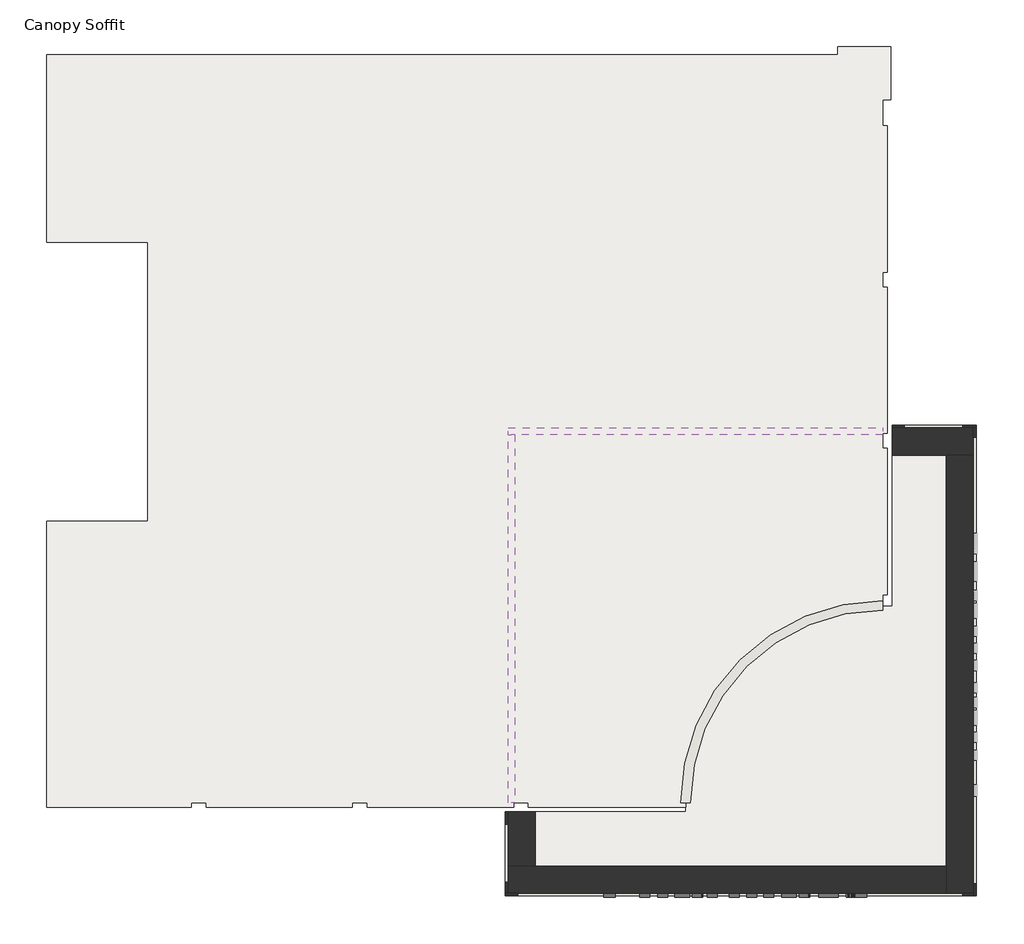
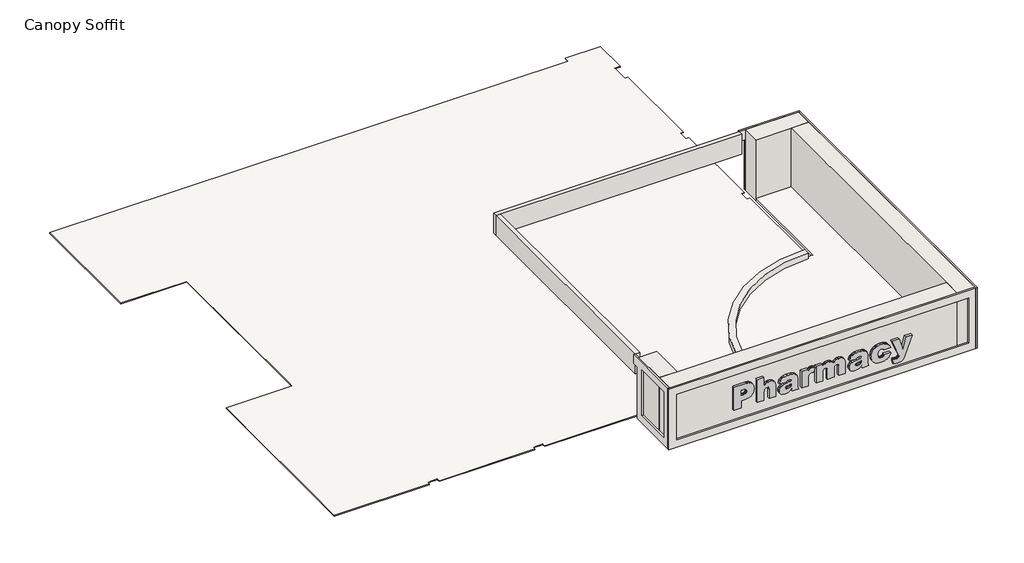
# One storey, part 1 of 2: 11 walls, 2 coverings, 1 proxy.
"""IFC4 building model written with IfcOpenShell, lengths in millimetres."""

from ifc_helpers import new_model, si_unit, point, frame, frame_2d, origin, place, context, project, spatial, polyline, circle_curve, trimmed, segment, composite_curve, outline, extrude, faceted_brep, element, save
from ifc_brep_helpers import plane_surface, cylinder_surface, revolved_surface, advanced_brep

model = new_model("IFC4")

# Units and contexts
model_context = context("Model", 3, world=origin())
ifc_project = project(units=[si_unit("LENGTHUNIT", "METRE", prefix="MILLI")], contexts=[model_context])

# Site, building, storey
site = spatial("IfcSite", under=ifc_project)
building = spatial("IfcBuilding", under=site)
storey = spatial("IfcBuildingStorey", under=building, Name="Canopy Soffit", Elevation=4572.0)

# Proxy
placement = place(None, origin())
element("IfcBuildingElementProxy", 1, Name="big", ObjectType="big", at=placement, inside=storey, context=model_context, shape_type="SweptSolid", body=[
    extrude(outline(polyline([(7079.97721, 8014.3522712), (5707.3420402, 8014.3522712), (5707.3420402, 8444.9829127), (6137.9726817, 8444.9829127), (6137.9726817, 8673.3349032), (6139.9669505, 8734.3950112), (6145.9497569, 8791.4140144), (6155.9211009, 8844.3919127), (6169.8809824, 8893.3287063), (6187.8294016, 8938.2243951), (6209.7663583, 8979.078979), (6235.6918526, 9015.8924581), (6265.6058845, 9048.6648325), (6299.0682036, 9077.4946655), (6335.6385594, 9102.4805209), (6375.3169518, 9123.6223984), (6418.103381, 9140.9202983), (6463.9978469, 9154.3742204), (6513.0003495, 9163.9841647), (6565.1108887, 9169.7501313), (6620.3294647, 9171.6721202), (6673.8461771, 9169.8914057), (6724.2154273, 9164.5492623), (6771.4372154, 9155.6456899), (6815.5115414, 9143.1806886), (6856.4384053, 9127.1542583), (6894.217807, 9107.5663991), (6928.8497466, 9084.4171109), (6960.3342242, 9057.7063938), (6988.375549, 9027.4211059), (7012.6780305, 8993.5481055), (7033.2416687, 8956.0873925), (7050.0664636, 8915.0389669), (7063.1524151, 8870.4028288), (7072.4995234, 8822.1789781), (7078.1077884, 8770.3674149), (7079.97721, 8714.9681391), (7079.97721, 8014.3522712)]), holes=[polyline([(6460.9456628, 8444.9829127), (6757.0042289, 8444.9829127), (6757.0042289, 8554.7432617), (6754.2838754, 8604.471849), (6746.122815, 8645.5794127), (6732.5210476, 8678.0659528), (6713.4785732, 8701.9314693), (6690.5461248, 8719.0420984), (6665.2744353, 8731.2639763), (6637.6635045, 8738.5971031), (6607.7133327, 8741.0414787), (6576.9877943, 8738.2291326), (6549.1534529, 8729.7920943), (6524.2103085, 8715.7303637), (6502.158361, 8696.043941), (6484.1278055, 8669.392362), (6471.2488374, 8634.4351627), (6463.5214565, 8591.1723431), (6460.9456628, 8539.6039032), (6460.9456628, 8444.9829127)])]), frame((0.0, -17607.3313057, 0.0), z_axis=(0.0, 1.0, 0.0), x_axis=(0.0, 0.0, 1.0)), (0.0, 0.0, 1.0), 152.4),
    extrude(outline(polyline([(7079.97721, 9360.0730259), (5707.3420402, 9360.0730259), (5707.3420402, 9736.8748372), (6190.5398987, 9736.8748372), (6254.0148132, 9739.6477579), (6306.9237171, 9747.96652), (6349.2666104, 9761.8311235), (6381.043493, 9781.2415683), (6404.2256357, 9805.1202266), (6420.7843091, 9832.3894704), (6430.7195131, 9863.0492998), (6434.0312478, 9897.0997146), (6431.5737304, 9927.483566), (6424.2011782, 9954.2928466), (6411.9135912, 9977.5275565), (6394.7109695, 9997.1876957), (6371.5945358, 10012.8264427), (6341.5655131, 10023.9969763), (6304.6239014, 10030.6992965), (6260.7697006, 10032.9334032), (5707.3420402, 10032.9334032), (5707.3420402, 10409.7352146), (6343.1950968, 10409.7352146), (6435.2402937, 10404.1236641), (6476.4924173, 10397.1092261), (6514.5642242, 10387.2890129), (6549.4557144, 10374.6630245), (6581.1668881, 10359.2312608), (6609.6977451, 10340.993722), (6635.0482855, 10319.9504079), (6657.3236437, 10296.4692892), (6676.6289541, 10270.9183363), (6692.9642168, 10243.2975492), (6706.3294317, 10213.606928), (6716.7245989, 10181.8464726), (6724.1497183, 10148.016183), (6730.0898138, 10074.1461013), (6727.9345579, 10023.3267443), (6721.4687902, 9976.0031072), (6710.6925107, 9932.1751901), (6695.6057195, 9891.8429929), (6675.498759, 9853.2192302), (6649.6619718, 9814.5166167), (6618.095358, 9775.7351523), (6580.7989176, 9736.8748372), (7079.97721, 9736.8748372), (7079.97721, 9360.0730259)])), frame((0.0, -17607.3313057, 0.0), z_axis=(0.0, 1.0, 0.0), x_axis=(0.0, 0.0, 1.0)), (0.0, 0.0, 1.0), 152.4),
    extrude(outline(polyline([(6353.2880025, 11001.8523466), (6380.3864028, 11012.7337605), (6402.8063209, 11025.192191), (6420.5477566, 11039.2276379), (6433.61071, 11054.8401013), (6445.5697519, 11078.3113637), (6454.1119246, 11107.091915), (6459.2372283, 11141.1817552), (6460.9456628, 11180.5808844), (6459.4474972, 11210.7281833), (6454.9530001, 11235.9867311), (6447.4621717, 11256.3565276), (6436.9750119, 11271.837573), (6422.7555797, 11283.2446591), (6404.0679341, 11291.3925778), (6380.912075, 11296.2813289), (6353.2880025, 11297.9109127), (6328.5288433, 11231.0979799), (6308.9212713, 11167.7544834), (6285.5288598, 11069.8217582), (6249.4151817, 10899.2411391), (6229.6761917, 10819.628089), (6205.3638539, 10753.629948), (6176.4781682, 10701.2467163), (6143.0191345, 10662.4783938), (6104.8027678, 10634.3286491), (6061.6450827, 10614.2216886), (6013.5460791, 10602.1575123), (5960.5057572, 10598.1361202), (5903.5754612, 10603.7082452), (5851.3762147, 10620.4246202), (5803.9080178, 10648.2852452), (5761.1708704, 10687.2901202), (5742.2466723, 10710.8730879), (5725.8457006, 10737.0449911), (5711.9679553, 10765.8058297), (5700.6134364, 10797.1556037), (5685.4740779, 10867.6219581), (5680.4276251, 10948.4440542), (5683.6867926, 11011.2355949), (5693.4642949, 11070.0845943), (5709.7601322, 11124.9910524), (5732.5743044, 11175.9549693), (5755.5724618, 11211.753244), (5785.0363869, 11247.6566532), (5820.9660797, 11283.6651969), (5863.3615402, 11319.7788749), (5782.4080261, 11333.0258136), (5707.3420402, 11361.4121108), (5707.3420402, 11722.6540259), (5764.0095001, 11697.737165), (5809.53271, 11683.5440164), (5857.1586086, 11676.9205471), (5920.1341345, 11674.712724), (6361.6987572, 11674.712724), (6397.4707483, 11672.9911476), (6434.1363822, 11667.8264186), (6510.1485779, 11647.1675023), (6546.8404954, 11632.1201364), (6579.1167666, 11614.5232605), (6606.9773916, 11594.3768746), (6630.4223704, 11571.6809787), (6658.309279, 11535.4884498), (6680.9920331, 11495.0379763), (6698.4706328, 11450.3295583), (6710.7450779, 11401.3631957), (6719.2083999, 11346.1150506), (6725.2536298, 11282.5612853), (6730.0898138, 11130.5368938), (6725.5164659, 11029.1347322), (6711.7964223, 10935.1971155), (6689.8758928, 10854.7167063), (6676.1952746, 10821.7702031), (6660.7010874, 10793.6861674), (6636.559593, 10759.8328796), (6610.3942607, 10730.1849693), (6582.2050906, 10704.7424363), (6551.9920827, 10683.5052806), (6517.8365334, 10665.5010088), (6477.8197395, 10649.7571273), (6431.9417009, 10636.2736361), (6380.2024176, 10625.0505353), (6353.2880025, 11001.8523466)]), holes=[polyline([(6164.8870968, 11297.9109127), (6118.6279459, 11297.9109127), (6069.477598, 11292.4964893), (6048.7266891, 11285.7284601), (6030.5252902, 11276.2532193), (6014.2425947, 11263.5582364), (5999.2477961, 11247.1309811), (5973.1218893, 11203.0796532), (5955.4593044, 11149.4085247), (5949.5717761, 11091.4268844), (5954.9861994, 11041.1200577), (5961.7542286, 11021.1313735), (5971.2294695, 11004.5858419), (5982.8599662, 10991.6148811), (5996.0937631, 10982.3499091), (6010.9308601, 10976.7909259), (6027.3712572, 10974.9379315), (6041.9060927, 10976.8040677), (6055.6524199, 10982.4024763), (6068.6102389, 10991.7331574), (6080.7795496, 11004.7961108), (6092.1866357, 11024.5088171), (6103.6988562, 11054.2092947), (6127.0387006, 11143.5735636), (6144.7012855, 11222.3192546), (6164.8870968, 11297.9109127)])]), frame((0.0, -17607.3313057, 0.0), z_axis=(0.0, 1.0, 0.0), x_axis=(0.0, 0.0, 1.0)), (0.0, 0.0, 1.0), 152.4),
    extrude(outline(polyline([(6703.1753987, 11890.0280447), (5707.3420402, 11890.0280447), (5707.3420402, 12266.8298561), (6043.3516912, 12266.8298561), (6154.0845337, 12270.5621285), (6245.7354765, 12281.7589457), (6318.3045196, 12300.4203077), (6347.4333287, 12312.550193), (6371.7916628, 12326.5462146), (6399.0214812, 12349.4918048), (6418.4713515, 12376.6953396), (6430.1412737, 12408.1568189), (6434.0312478, 12443.8762429), (6426.9872407, 12490.5559315), (6405.8552195, 12551.5339032), (6673.7377572, 12670.5460825), (6698.391782, 12621.0803313), (6716.0017996, 12573.6121344), (6726.5678103, 12528.1414917), (6730.0898138, 12484.6684032), (6727.5797292, 12445.7029536), (6720.0494753, 12409.9703879), (6707.4990523, 12377.470706), (6689.92846, 12348.2039079), (6665.6818312, 12320.7769625), (6633.1032985, 12293.7968384), (6592.1928618, 12267.2635356), (6542.9505213, 12241.1770542), (6703.1753987, 12241.1770542), (6703.1753987, 11890.0280447)])), frame((0.0, -17607.3313057, 0.0), z_axis=(0.0, 1.0, 0.0), x_axis=(0.0, 0.0, 1.0)), (0.0, 0.0, 1.0), 152.4),
    extrude(outline(polyline([(6703.1753987, 12724.3749127), (5707.3420402, 12724.3749127), (5707.3420402, 13101.176724), (6219.5570025, 13101.176724), (6272.7287424, 13103.8050848), (6317.8576982, 13111.6901674), (6354.9438698, 13124.8319716), (6383.9872572, 13143.2304976), (6405.8815031, 13165.7292664), (6421.5202501, 13191.1717995), (6430.9034983, 13219.5580966), (6434.0312478, 13250.8881579), (6428.2488539, 13288.3160164), (6410.9016723, 13320.6974221), (6384.0923916, 13346.1399551), (6349.9237006, 13362.7511957), (6315.7550095, 13368.4284551), (6260.3491628, 13370.3208749), (5707.3420402, 13370.3208749), (5707.3420402, 13747.1226863), (6226.706144, 13747.1226863), (6277.4335084, 13749.6721963), (6320.6963279, 13757.3207263), (6356.4946027, 13770.0682765), (6384.8283327, 13787.9148466), (6406.354608, 13809.9405105), (6421.730519, 13835.2253419), (6430.9560656, 13863.7693407), (6434.0312478, 13895.572507), (6430.7720803, 13922.7760418), (6420.9945779, 13947.6140518), (6404.6987407, 13970.0865371), (6381.8845685, 13990.1934976), (6363.0917884, 14001.6005837), (6339.9359294, 14009.7485023), (6312.4169913, 14014.6372535), (6280.5349742, 14016.2668372), (5707.3420402, 14016.2668372), (5707.3420402, 14393.0686485), (6335.6254176, 14393.0686485), (6430.4698188, 14387.5096653), (6472.8554229, 14380.5609363), (6511.8832961, 14370.8327157), (6547.5534383, 14358.3250035), (6579.8658495, 14343.0377998), (6608.8205297, 14324.9711044), (6634.4174789, 14304.1249174), (6656.8406824, 14280.8080712), (6676.2741254, 14255.3293982), (6692.717808, 14227.6888984), (6706.1717301, 14197.8865719), (6716.6358917, 14165.9224185), (6724.1102929, 14131.7964383), (6730.0898138, 14057.0589976), (6727.8951325, 14005.5694085), (6721.3110886, 13958.3377641), (6710.337682, 13915.3640642), (6694.9749128, 13876.6483089), (6673.5406301, 13839.0890324), (6644.3526829, 13799.5847688), (6607.4110712, 13758.1355182), (6562.7157949, 13714.7412806), (6601.7732371, 13691.3225854), (6635.6790921, 13664.8024245), (6664.4333598, 13635.1807977), (6688.0360402, 13602.4577051), (6706.4345662, 13565.1086975), (6719.5763704, 13521.6093254), (6727.4614529, 13471.959589), (6730.0898138, 13416.1594881), (6727.6980054, 13363.3031515), (6720.5225803, 13314.4944905), (6708.5635384, 13269.7335052), (6691.8208798, 13229.0201957), (6669.4009618, 13190.4095748), (6640.4101416, 13151.9566556), (6604.8484193, 13113.661438), (6562.7157949, 13075.5239221), (6703.1753987, 13075.5239221), (6703.1753987, 12724.3749127)])), frame((0.0, -17607.3313057, 0.0), z_axis=(0.0, 1.0, 0.0), x_axis=(0.0, 0.0, 1.0)), (0.0, 0.0, 1.0), 152.4),
    extrude(outline(polyline([(6353.2880025, 15012.1001957), (6380.3864028, 15022.9816096), (6402.8063209, 15035.44004), (6420.5477566, 15049.475487), (6433.61071, 15065.0879504), (6445.5697519, 15088.5592128), (6454.1119246, 15117.3397641), (6459.2372283, 15151.4296043), (6460.9456628, 15190.8287334), (6459.4474972, 15220.9760324), (6454.9530001, 15246.2345801), (6447.4621717, 15266.6043767), (6436.9750119, 15282.0854221), (6422.7555797, 15293.4925082), (6404.0679341, 15301.6404268), (6380.912075, 15306.529178), (6353.2880025, 15308.1587617), (6328.5288433, 15241.3458289), (6308.9212713, 15178.0023325), (6285.5288598, 15080.0696072), (6249.4151817, 14909.4889881), (6229.6761917, 14829.875938), (6205.3638539, 14763.8777971), (6176.4781682, 14711.4945654), (6143.0191345, 14672.7262429), (6104.8027678, 14644.5764982), (6061.6450827, 14624.4695377), (6013.5460791, 14612.4053614), (5960.5057572, 14608.3839693), (5903.5754612, 14613.9560943), (5851.3762147, 14630.6724693), (5803.9080178, 14658.5330943), (5761.1708704, 14697.5379693), (5742.2466723, 14721.120937), (5725.8457006, 14747.2928401), (5711.9679553, 14776.0536787), (5700.6134364, 14807.4034528), (5685.4740779, 14877.8698071), (5680.4276251, 14958.6919032), (5683.6867926, 15021.4834439), (5693.4642949, 15080.3324433), (5709.7601322, 15135.2389015), (5732.5743044, 15186.2028183), (5755.5724618, 15222.0010931), (5785.0363869, 15257.9045023), (5820.9660797, 15293.9130459), (5863.3615402, 15330.026724), (5782.4080261, 15343.2736627), (5707.3420402, 15371.6599598), (5707.3420402, 15732.9018749), (5764.0095001, 15707.9850141), (5809.53271, 15693.7918655), (5857.1586086, 15687.1683962), (5920.1341345, 15684.960573), (6361.6987572, 15684.960573), (6397.4707483, 15683.2389967), (6434.1363822, 15678.0742676), (6510.1485779, 15657.4153513), (6546.8404954, 15642.3679855), (6579.1167666, 15624.7711096), (6606.9773916, 15604.6247237), (6630.4223704, 15581.9288278), (6658.309279, 15545.7362989), (6680.9920331, 15505.2858254), (6698.4706328, 15460.5774074), (6710.7450779, 15411.6110447), (6719.2083999, 15356.3628997), (6725.2536298, 15292.8091344), (6730.0898138, 15140.7847429), (6725.5164659, 15039.3825813), (6711.7964223, 14945.4449646), (6689.8758928, 14864.9645554), (6676.1952746, 14832.0180521), (6660.7010874, 14803.9340164), (6636.559593, 14770.0807287), (6610.3942607, 14740.4328183), (6582.2050906, 14714.9902853), (6551.9920827, 14693.7531296), (6517.8365334, 14675.7488578), (6477.8197395, 14660.0049763), (6431.9417009, 14646.5214852), (6380.2024176, 14635.2983844), (6353.2880025, 15012.1001957)]), holes=[polyline([(6164.8870968, 15308.1587617), (6118.6279459, 15308.1587617), (6069.477598, 15302.7443384), (6048.7266891, 15295.9763092), (6030.5252902, 15286.5010683), (6014.2425947, 15273.8060854), (5999.2477961, 15257.3788301), (5973.1218893, 15213.3275023), (5955.4593044, 15159.6563738), (5949.5717761, 15101.6747334), (5954.9861994, 15051.3679068), (5961.7542286, 15031.3792225), (5971.2294695, 15014.833691), (5982.8599662, 15001.8627302), (5996.0937631, 14992.5977582), (6010.9308601, 14987.038775), (6027.3712572, 14985.1857806), (6041.9060927, 14987.0519168), (6055.6524199, 14992.6503254), (6068.6102389, 15001.9810064), (6080.7795496, 15015.0439598), (6092.1866357, 15034.7566662), (6103.6988562, 15064.4571438), (6127.0387006, 15153.8214127), (6144.7012855, 15232.5671037), (6164.8870968, 15308.1587617)])]), frame((0.0, -17607.3313057, 0.0), z_axis=(0.0, 1.0, 0.0), x_axis=(0.0, 0.0, 1.0)), (0.0, 0.0, 1.0), 152.4),
    extrude(outline(polyline([(6084.1438515, 16626.9651013), (6052.090991, 16613.9021479), (6024.4800603, 16597.8428631), (6001.3110594, 16578.787247), (5982.5839883, 16556.7352995), (5968.1411455, 16531.792155), (5957.8248291, 16504.062948), (5951.6350393, 16473.5476786), (5949.5717761, 16440.2463466), (5953.4617501, 16400.6500904), (5965.1316723, 16364.7072558), (5984.5815426, 16332.4178428), (6011.811361, 16303.7818513), (6046.5320078, 16280.3237308), (6088.4543633, 16263.5679304), (6137.5784276, 16253.5144501), (6193.9042006, 16250.16329), (6256.9191519, 16253.4224575), (6311.3919305, 16263.1999598), (6357.3225364, 16279.4957971), (6394.7109695, 16302.3099693), (6423.6886478, 16330.4071467), (6444.3869895, 16362.5519999), (6456.8059945, 16398.7445288), (6460.9456628, 16438.9847334), (6459.2503701, 16470.7090489), (6454.1644919, 16499.0164952), (6445.6880281, 16523.9070725), (6433.8209789, 16545.3807806), (6418.6159114, 16563.6216049), (6400.1253928, 16578.8135306), (6378.3494232, 16590.9565577), (6353.2880025, 16600.0506863), (6380.2024176, 16976.8524976), (6460.8405284, 16946.9811765), (6497.2958934, 16928.5662233), (6531.1754647, 16907.8317417), (6562.4792424, 16884.7777316), (6591.2072265, 16859.404193), (6617.359417, 16831.711126), (6640.9358138, 16801.6985306), (6661.8312825, 16768.7618837), (6679.9406888, 16732.2966624), (6695.2640325, 16692.3028666), (6707.8013138, 16648.7804964), (6717.5525325, 16601.7295517), (6724.5176888, 16551.1500327), (6730.0898138, 16439.4052712), (6727.1986169, 16358.1100701), (6718.5250261, 16284.5422499), (6704.0690414, 16218.7018107), (6683.8306628, 16160.5887523), (6667.2062805, 16126.5383375), (6646.7707749, 16092.934744), (6622.524146, 16059.7779719), (6594.466394, 16027.0680212), (6563.517445, 15996.3030574), (6530.5972253, 15968.9812464), (6495.7057351, 15945.1025881), (6458.8429742, 15924.6670825), (6404.0942177, 15902.2208808), (6342.8796935, 15886.1878796), (6275.1994016, 15876.5680789), (6201.0533421, 15873.3614787), (6130.4949951, 15876.0029814), (6067.2697749, 15883.9274893), (6011.3776814, 15897.1350026), (5962.8187147, 15915.6255212), (5919.3850517, 15938.7813802), (5878.8688692, 15965.984915), (5841.2701673, 15997.2361255), (5806.5889459, 16032.5350117), (5775.6531387, 16071.658163), (5749.2906794, 16114.3821686), (5727.5015679, 16160.7070285), (5710.2858044, 16210.6327429), (5697.2228509, 16265.6180518), (5687.8921699, 16327.1216957), (5682.2937613, 16395.1436745), (5680.4276251, 16469.6839881), (5683.3451057, 16546.6818192), (5692.0975473, 16616.6093596), (5706.68495, 16679.4666093), (5727.1073138, 16735.2535683), (5752.7863993, 16785.1792827), (5783.1439671, 16830.4527983), (5818.1800172, 16871.0741152), (5857.8945496, 16907.0432334), (5901.8933103, 16938.3207275), (5949.7820449, 16964.8671721), (6001.5607537, 16986.6825671), (6057.2294364, 17003.7669127), (6084.1438515, 16626.9651013)])), frame((0.0, -17607.3313057, 0.0), z_axis=(0.0, 1.0, 0.0), x_axis=(0.0, 0.0, 1.0)), (0.0, 0.0, 1.0), 152.4),
    extrude(outline(polyline([(6703.1753987, 17057.5957429), (5698.5107478, 17473.9281013), (5665.8796478, 17458.6310412), (5638.6366876, 17441.7569646), (5616.7818672, 17423.3058714), (5600.3151864, 17403.2777617), (5588.2641519, 17380.8578437), (5579.6562702, 17355.2313254), (5574.4915411, 17326.3982069), (5572.7699647, 17294.3584881), (5574.3206976, 17245.2344239), (5578.9728963, 17198.3707499), (5586.7265608, 17153.7674663), (5597.5816912, 17111.424573), (5326.7553893, 17141.2827523), (5309.4082077, 17289.8377075), (5303.6258138, 17394.0259315), (5309.1979388, 17488.3052352), (5316.163095, 17530.615274), (5325.9143138, 17569.7055707), (5338.451595, 17605.5761254), (5353.7749388, 17638.226938), (5371.884345, 17667.6580086), (5392.7798138, 17693.8693372), (5431.837256, 17728.589984), (5485.5083845, 17762.9426603), (5553.7931994, 17796.9273661), (5636.6917006, 17830.5441013), (6703.1753987, 18214.9155919), (6703.1753987, 17844.4218466), (6040.407927, 17663.1700825), (6703.1753987, 17463.4146579), (6703.1753987, 17057.5957429)])), frame((0.0, -17607.3313057, 0.0), z_axis=(0.0, 1.0, 0.0), x_axis=(0.0, 0.0, 1.0)), (0.0, 0.0, 1.0), 152.4),
])

# Coverings
element("IfcCovering", 2, ObjectType="24\" x 24\" ACT.", at=placement, inside=storey, context=model_context, shape_type="SweptSolid", body=[
    extrude(outline(composite_curve([segment(polyline([(18477.7022279, 12310.6936943), (18477.7022279, 11321.6811943), (18653.9147279, 11321.6811943), (18653.9147279, 5835.2811943), (18477.7022279, 5835.2811943), (18477.7022279, 5276.4811943), (18653.9147279, 5276.4811943), (18653.9147279, -209.9188057), (18477.7022279, -209.9188057), (18477.7022279, -768.7188057), (18653.9147279, -768.7188057), (18653.9147279, -6255.1188057), (18477.7022279, -6255.1188057), (18477.7022279, -6661.5188057)]), True, "CONTINUOUS"), segment(trimmed(circle_curve(frame_2d((18477.7022279, -14054.5063057)), 7392.9875), [point((18477.7022279, -6661.5188057))], [point((11086.8150464, -14230.7188057))], True, "CARTESIAN"), True, "CONTINUOUS"), segment(polyline([(11086.8150464, -14230.7188057), (5191.9147279, -14230.7188057), (5191.9147279, -14054.5063057), (4633.1147279, -14054.5063057), (4633.1147279, -14230.7188057), (-853.2852721, -14230.7188057), (-853.2852721, -14054.5063057), (-1412.0852721, -14054.5063057), (-1412.0852721, -14230.7188057), (-6898.4852721, -14230.7188057), (-6898.4852721, -14054.5063057), (-7457.2852721, -14054.5063057), (-7457.2852721, -14230.7188057), (-12883.3602721, -14230.7188057), (-12883.3602721, -3500.0125557), (-9095.5852721, -3500.0125557), (-9095.5852721, 6956.8499443), (-12883.3602721, 6956.8499443), (-12883.3602721, 13993.4436943), (16794.9522279, 13993.4436943), (16794.9522279, 14298.2436943), (18782.5022279, 14298.2436943), (18782.5022279, 12310.6936943), (18477.7022279, 12310.6936943)]), True, "CONTINUOUS")], self_intersect=False)), frame((0.0, 0.0, 4572.0), z_axis=(0.0, 0.0, 1.0), x_axis=(1.0, 0.0, 0.0)), (0.0, 0.0, 1.0), 38.1),
])
element("IfcCovering", 3, ObjectType="GWB on Mtl. Stud", at=placement, inside=storey, context=model_context, shape_type="SweptSolid", body=[
    extrude(outline(composite_curve([segment(polyline([(5445.9147279, -14406.9313057), (11093.1195861, -14406.9313057)]), True, "CONTINUOUS"), segment(trimmed(circle_curve(frame_2d((18477.7022279, -14054.5063057)), 7392.9875), [point((11093.1195861, -14406.9313057))], [point((18830.1272279, -6669.9236638))], False, "CARTESIAN"), True, "CONTINUOUS"), segment(polyline([(18830.1272279, -6669.9236638), (18830.1272279, -1022.7188057), (20862.1272279, -1022.7188057), (20862.1272279, -16438.9313057), (5445.9147279, -16438.9313057), (5445.9147279, -14406.9313057)]), True, "CONTINUOUS")], self_intersect=False)), frame((0.0, 0.0, 4572.0), z_axis=(0.0, 0.0, 1.0), x_axis=(1.0, 0.0, 0.0)), (0.0, 0.0, 1.0), 107.95),
])

# Walls
element("IfcWall", 4, ObjectType="Exterior - Brick on Mtl. Stud - No Cap", at=placement, inside=storey, context=model_context, shape_type="AdvancedBrep", body=[
    advanced_brep(
    [(18477.7022279, -6485.3063057, 5029.2), (10908.5022279, -14054.5063057, 5029.2), (11260.9272279, -14054.5063057, 5029.2), (18477.7022279, -6837.7313057, 5029.2), (10908.5022279, -14054.5063057, 3048.0), (18477.7022279, -6485.3063057, 3048.0), (18477.7022279, -6837.7313057, 3048.0), (18477.7022279, -6837.7313057, 4625.5040439), (11260.9272279, -14054.5063057, 4625.5040439), (11260.9272279, -14054.5063057, 3048.0)],
    [
        (0, 1, circle_curve(frame((18477.7022279, -14054.5063057, 5029.2), z_axis=(0.0, 0.0, 1.0), x_axis=(1.0, 0.0, 0.0)), 7569.2)),
        (1, 2),
        (2, 3, circle_curve(frame((18477.7022279, -14054.5063057, 5029.2), z_axis=(0.0, 0.0, -1.0), x_axis=(1.0, 0.0, 0.0)), 7216.775)),
        (3, 0),
        (4, 1),
        (0, 5),
        (5, 4, circle_curve(frame((18477.7022279, -14054.5063057, 3048.0), z_axis=(0.0, 0.0, 1.0), x_axis=(1.0, 0.0, 0.0)), 7569.2)),
        (6, 7),
        (7, 3),
        (2, 8),
        (8, 9),
        (9, 6, circle_curve(frame((18477.7022279, -14054.5063057, 3048.0), z_axis=(0.0, 0.0, -1.0), x_axis=(1.0, 0.0, 0.0)), 7216.775)),
        (6, 5),
        (4, 9),
    ],
    [
        plane_surface(frame((26046.9022279, -14054.5063057, 5029.2), z_axis=(0.0, 0.0, 1.0), x_axis=(0.0, 1.0, 0.0))),
        cylinder_surface(frame((18477.7022279, -14054.5063057, 4572.0), z_axis=(0.0, 0.0, 1.0), x_axis=(1.0, 0.0, 0.0)), 7569.2),
        revolved_surface(polyline([(25694.477227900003, -14054.5063057, 3048.0), (25694.477227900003, -14054.5063057, 5029.2)]), (18477.7022279, -14054.5063057, 4572.0), (0.0, 0.0, -1.0)),
        plane_surface(frame((18477.7022279, 12134.4811943, 7620.0), z_axis=(1.0, 0.0, 0.0), x_axis=(0.0, 0.0, -1.0))),
        plane_surface(frame((-12953.2102721, -14054.5063057, 7620.0), z_axis=(0.0, -1.0, 0.0), x_axis=(1.0, 0.0, 0.0))),
        plane_surface(frame((25883.1897279, -14054.5063057, 3048.0), z_axis=(0.0, 0.0, -1.0), x_axis=(0.0, 1.0, 0.0))),
    ],
    [
        (0, [[1, 2, 3, 4]]),
        (1, [[5, -1, 6, 7]]),
        (2, [[8, 9, -3, 10, 11, 12]]),
        (3, [[-4, -9, -8, 13, -6]]),
        (4, [[-2, -5, 14, -11, -10]]),
        (5, [[-13, -12, -14, -7]]),
    ],
),
])
element("IfcWall", 5, ObjectType="Exterior - EIFS Canopy Roof Wall", at=placement, inside=storey, context=model_context, shape_type="Brep", body=[
    faceted_brep([(18477.7022279, -6.7188057, 7016.75), (4429.9147279, -6.7188057, 7016.75), (4429.9147279, -6.7188057, 8229.6), (18477.7022279, -6.7188057, 8229.6), (18477.7022279, -254.3688057, 7016.75), (18477.7022279, -254.3688057, 8229.6), (4677.5647279, -254.3688057, 8229.6), (4429.9147279, -254.3688057, 8229.6), (4429.9147279, -254.3688057, 7016.75), (4677.5647279, -254.3688057, 7016.75)], [[[0, 1, 2, 3]], [[4, 5, 6, 7, 8, 9]], [[3, 2, 7, 6, 5]], [[0, 3, 5, 4]], [[2, 1, 8, 7]], [[1, 0, 4, 9, 8]]]),
])
element("IfcWall", 6, ObjectType="Exterior - EIFS Canopy Roof Wall", at=placement, inside=storey, context=model_context, shape_type="SweptSolid", body=[
    extrude(outline(polyline([(4677.5647279, -254.3688057), (4677.5647279, -14054.5063057), (4429.9147279, -14054.5063057), (4429.9147279, -254.3688057), (4677.5647279, -254.3688057)])), frame((0.0, 0.0, 7016.75), z_axis=(0.0, 0.0, 1.0), x_axis=(1.0, 0.0, 0.0)), (0.0, 0.0, 1.0), 1212.85),
])
element("IfcWall", 7, ObjectType="Exterior - EIFS Canopy Wall", at=placement, inside=storey, context=model_context, shape_type="Brep", body=[
    faceted_brep([(18830.1272279, -1022.7188057, 4572.0), (20862.1272279, -1022.7188057, 4572.0), (21878.1272279, -1022.7188057, 4572.0), (21878.1272279, -1022.7188057, 8229.6), (20862.1272279, -1022.7188057, 8229.6), (18830.1272279, -1022.7188057, 8229.6), (18830.1272279, -6.7188057, 4572.0), (18830.1272279, -6.7188057, 7620.0), (18830.1272279, -6.7188057, 8229.6), (21878.1272279, -6.7188057, 8229.6), (21878.1272279, -6.7188057, 4572.0)], [[[0, 1, 2, 3, 4, 5]], [[6, 7, 8, 9, 10]], [[2, 1, 0, 6, 10]], [[5, 4, 3, 9, 8]], [[0, 5, 8, 7, 6]], [[3, 2, 10, 9]]]),
])
element("IfcWall", 8, ObjectType="Exterior - EIFS Canopy Wall", at=placement, inside=storey, context=model_context, shape_type="Brep", body=[
    faceted_brep([(20862.1272279, -1022.7188057, 4572.0), (20862.1272279, -16438.9313057, 4572.0), (20862.1272279, -17454.9313057, 4572.0), (20862.1272279, -17454.9313057, 8229.6), (20862.1272279, -16438.9313057, 8229.6), (20862.1272279, -1022.7188057, 8229.6), (21878.1272279, -1022.7188057, 4572.0), (21878.1272279, -1022.7188057, 8229.6), (21878.1272279, -17454.9313057, 8229.6), (21878.1272279, -17454.9313057, 4572.0)], [[[0, 1, 2, 3, 4, 5]], [[6, 7, 8, 9]], [[2, 1, 0, 6, 9]], [[5, 4, 3, 8, 7]], [[0, 5, 7, 6]], [[3, 2, 9, 8]]]),
])
element("IfcWall", 9, ObjectType="Exterior - EIFS Canopy Wall", at=placement, inside=storey, context=model_context, shape_type="Brep", body=[
    faceted_brep([(20862.1272279, -16438.9313057, 4572.0), (5445.9147279, -16438.9313057, 4572.0), (4429.9147279, -16438.9313057, 4572.0), (4429.9147279, -16438.9313057, 8229.6), (5445.9147279, -16438.9313057, 8229.6), (20862.1272279, -16438.9313057, 8229.6), (20862.1272279, -17454.9313057, 4572.0), (20862.1272279, -17454.9313057, 8229.6), (4429.9147279, -17454.9313057, 8229.6), (4429.9147279, -17454.9313057, 4572.0)], [[[0, 1, 2, 3, 4, 5]], [[6, 7, 8, 9]], [[2, 1, 0, 6, 9]], [[5, 4, 3, 8, 7]], [[0, 5, 7, 6]], [[3, 2, 9, 8]]]),
])
element("IfcWall", 10, ObjectType="Exterior - EIFS Canopy Wall", at=placement, inside=storey, context=model_context, shape_type="Brep", body=[
    faceted_brep([(5445.9147279, -16438.9313057, 4572.0), (5445.9147279, -14406.9313057, 4572.0), (5445.9147279, -14406.9313057, 8229.6), (5445.9147279, -16438.9313057, 8229.6), (4429.9147279, -16438.9313057, 4572.0), (4429.9147279, -16438.9313057, 8229.6), (4429.9147279, -14406.9313057, 8229.6), (4429.9147279, -14406.9313057, 7683.5), (4429.9147279, -14406.9313057, 4572.0)], [[[0, 1, 2, 3]], [[4, 5, 6, 7, 8]], [[1, 0, 4, 8]], [[2, 1, 8, 7, 6]], [[3, 2, 6, 5]], [[0, 3, 5, 4]]]),
])
element("IfcWall", 11, ObjectType="Exterior - EIFS Details", at=placement, inside=storey, context=model_context, shape_type="Brep", body=[
    faceted_brep([(18830.1272279, -6.7188057, 4572.0), (21878.1272279, -6.7188057, 4572.0), (21979.7272279, -6.7188057, 4572.0), (21979.7272279, -6.7188057, 8229.6), (21878.1272279, -6.7188057, 8229.6), (18830.1272279, -6.7188057, 8229.6), (18477.7022279, -6.7188057, 8229.6), (18477.7022279, -6.7188057, 7620.0), (18830.1272279, -6.7188057, 7620.0), (21471.7272279, -6.7188057, 5029.2), (19287.3272279, -6.7188057, 5029.2), (19287.3272279, -6.7188057, 7772.4), (21471.7272279, -6.7188057, 7772.4), (18830.1272279, 94.8811943, 4572.0), (18830.1272279, 94.8811943, 7620.0), (18477.7022279, 94.8811943, 7620.0), (18477.7022279, 94.8811943, 8229.6), (21979.7272279, 94.8811943, 8229.6), (21979.7272279, 94.8811943, 4572.0), (21471.7272279, 94.8811943, 5029.2), (21471.7272279, 94.8811943, 7772.4), (19287.3272279, 94.8811943, 7772.4), (19287.3272279, 94.8811943, 5029.2)], [[[0, 1, 2, 3, 4, 5, 6, 7, 8], [9, 10, 11, 12]], [[13, 14, 15, 16, 17, 18], [19, 20, 21, 22]], [[3, 2, 18, 17]], [[2, 1, 0, 13, 18]], [[6, 5, 4, 3, 17, 16]], [[0, 8, 14, 13]], [[10, 9, 19, 22]], [[11, 10, 22, 21]], [[12, 11, 21, 20]], [[9, 12, 20, 19]], [[7, 6, 16, 15]], [[8, 7, 15, 14]]]),
])
element("IfcWall", 12, ObjectType="Exterior - EIFS Details", at=placement, inside=storey, context=model_context, shape_type="Brep", body=[
    faceted_brep([(21878.1272279, -6.7188057, 4572.0), (21878.1272279, -1022.7188057, 4572.0), (21878.1272279, -17454.9313057, 4572.0), (21878.1272279, -17556.5313057, 4572.0), (21878.1272279, -17556.5313057, 8229.6), (21878.1272279, -17454.9313057, 8229.6), (21878.1272279, -1022.7188057, 8229.6), (21878.1272279, -6.7188057, 8229.6), (21878.1272279, -362.3188057, 5029.2), (21878.1272279, -362.3188057, 7772.4), (21878.1272279, -17099.3313057, 7772.4), (21878.1272279, -17099.3313057, 5029.2), (21979.7272279, -6.7188057, 4572.0), (21979.7272279, -6.7188057, 8229.6), (21979.7272279, -17556.5313057, 8229.6), (21979.7272279, -17556.5313057, 4572.0), (21979.7272279, -362.3188057, 5029.2), (21979.7272279, -17099.3313057, 5029.2), (21979.7272279, -17099.3313057, 7772.4), (21979.7272279, -362.3188057, 7772.4)], [[[0, 1, 2, 3, 4, 5, 6, 7], [8, 9, 10, 11]], [[12, 13, 14, 15], [16, 17, 18, 19]], [[0, 7, 13, 12]], [[4, 3, 15, 14]], [[3, 2, 1, 0, 12, 15]], [[7, 6, 5, 4, 14, 13]], [[9, 8, 16, 19]], [[10, 9, 19, 18]], [[11, 10, 18, 17]], [[8, 11, 17, 16]]]),
])
element("IfcWall", 13, ObjectType="Exterior - EIFS Details", at=placement, inside=storey, context=model_context, shape_type="Brep", body=[
    faceted_brep([(21878.1272279, -17454.9313057, 4572.0), (20862.1272279, -17454.9313057, 4572.0), (4429.9147279, -17454.9313057, 4572.0), (4328.3147279, -17454.9313057, 4572.0), (4328.3147279, -17454.9313057, 8229.6), (4429.9147279, -17454.9313057, 8229.6), (20862.1272279, -17454.9313057, 8229.6), (21878.1272279, -17454.9313057, 8229.6), (4785.5147279, -17454.9313057, 5029.2), (21471.7272279, -17454.9313057, 5029.2), (21471.7272279, -17454.9313057, 7772.4), (4785.5147279, -17454.9313057, 7772.4), (21878.1272279, -17556.5313057, 4572.0), (21878.1272279, -17556.5313057, 8229.6), (4328.3147279, -17556.5313057, 8229.6), (4328.3147279, -17556.5313057, 4572.0), (4785.5147279, -17556.5313057, 5029.2), (4785.5147279, -17556.5313057, 7772.4), (21471.7272279, -17556.5313057, 7772.4), (21471.7272279, -17556.5313057, 5029.2)], [[[0, 1, 2, 3, 4, 5, 6, 7], [8, 9, 10, 11]], [[12, 13, 14, 15], [16, 17, 18, 19]], [[0, 7, 13, 12]], [[4, 3, 15, 14]], [[3, 2, 1, 0, 12, 15]], [[7, 6, 5, 4, 14, 13]], [[9, 8, 16, 19]], [[10, 9, 19, 18]], [[11, 10, 18, 17]], [[8, 11, 17, 16]]]),
])
element("IfcWall", 14, ObjectType="Exterior - EIFS Details", at=placement, inside=storey, context=model_context, shape_type="Brep", body=[
    faceted_brep([(4429.9147279, -17454.9313057, 4572.0), (4429.9147279, -16438.9313057, 4572.0), (4429.9147279, -14406.9313057, 4572.0), (4429.9147279, -14406.9313057, 7683.5), (4429.9147279, -14054.5063057, 7683.5), (4429.9147279, -14054.5063057, 8229.6), (4429.9147279, -14406.9313057, 8229.6), (4429.9147279, -16438.9313057, 8229.6), (4429.9147279, -17454.9313057, 8229.6), (4429.9147279, -14864.1313057, 7772.4), (4429.9147279, -14864.1313057, 5029.2), (4429.9147279, -17048.5313057, 5029.2), (4429.9147279, -17048.5313057, 7772.4), (4328.3147279, -17454.9313057, 4572.0), (4328.3147279, -17454.9313057, 8229.6), (4328.3147279, -14054.5063057, 8229.6), (4328.3147279, -14054.5063057, 7683.5), (4328.3147279, -14406.9313057, 7683.5), (4328.3147279, -14406.9313057, 4572.0), (4328.3147279, -14864.1313057, 7772.4), (4328.3147279, -17048.5313057, 7772.4), (4328.3147279, -17048.5313057, 5029.2), (4328.3147279, -14864.1313057, 5029.2)], [[[0, 1, 2, 3, 4, 5, 6, 7, 8], [9, 10, 11, 12]], [[13, 14, 15, 16, 17, 18], [19, 20, 21, 22]], [[0, 8, 14, 13]], [[2, 1, 0, 13, 18]], [[3, 2, 18, 17]], [[8, 7, 6, 5, 15, 14]], [[10, 9, 19, 22]], [[11, 10, 22, 21]], [[12, 11, 21, 20]], [[9, 12, 20, 19]], [[4, 3, 17, 16]], [[5, 4, 16, 15]]]),
])

save(model, "model.ifc")
